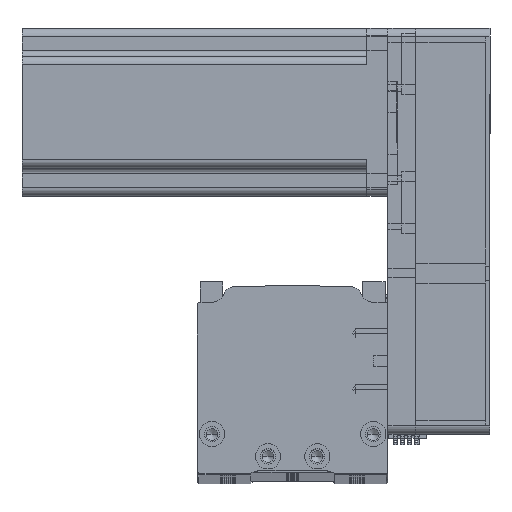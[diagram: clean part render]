
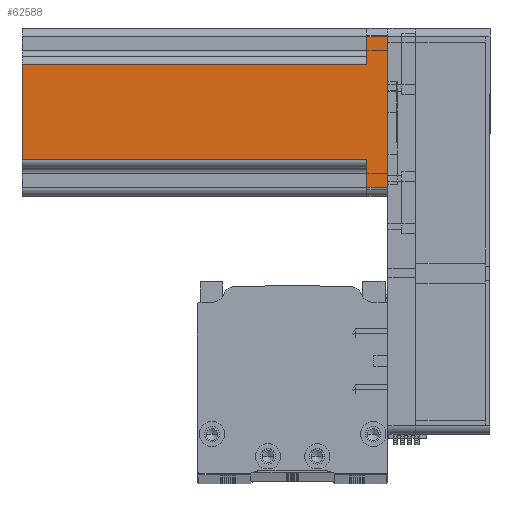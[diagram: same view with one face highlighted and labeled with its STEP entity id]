
A CAD part, top view. The second image highlights one B-rep face of the part: STEP entity #62588.
In plain terms, the highlighted planar face has unit normal (0, 0, 1) as drawn and (0, -1, 0) by its records, which use the part's own axes.
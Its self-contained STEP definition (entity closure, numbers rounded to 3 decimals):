
#108 = ORIENTED_EDGE ( 'NONE', *, *, #63922, .T. ) ;
#1700 = VERTEX_POINT ( 'NONE', #34991 ) ;
#2120 = VERTEX_POINT ( 'NONE', #38056 ) ;
#2446 = ORIENTED_EDGE ( 'NONE', *, *, #5366, .T. ) ;
#2480 = LINE ( 'NONE', #35633, #42199 ) ;
#4427 = ORIENTED_EDGE ( 'NONE', *, *, #37836, .T. ) ;
#5366 = EDGE_CURVE ( 'NONE', #16428, #2120, #51120, .T. ) ;
#6698 = AXIS2_PLACEMENT_3D ( 'NONE', #50732, #19759, #55977 ) ;
#7811 = VERTEX_POINT ( 'NONE', #65403 ) ;
#8148 = VECTOR ( 'NONE', #35268, 1000. ) ;
#8326 = LINE ( 'NONE', #56035, #48047 ) ;
#8491 = ORIENTED_EDGE ( 'NONE', *, *, #65671, .F. ) ;
#10714 = CARTESIAN_POINT ( 'NONE',  ( -27., -30., 7.5 ) ) ;
#11342 = LINE ( 'NONE', #11974, #52720 ) ;
#11683 = VERTEX_POINT ( 'NONE', #20387 ) ;
#11974 = CARTESIAN_POINT ( 'NONE',  ( 30., -30., 130.7 ) ) ;
#14751 = CARTESIAN_POINT ( 'NONE',  ( 17., -30., 130.7 ) ) ;
#16428 = VERTEX_POINT ( 'NONE', #46143 ) ;
#18741 = EDGE_CURVE ( 'NONE', #67098, #53485, #2480, .T. ) ;
#19021 = CARTESIAN_POINT ( 'NONE',  ( 27., -30., 0. ) ) ;
#19759 = DIRECTION ( 'NONE',  ( 0., 1., 0. ) ) ;
#20001 = DIRECTION ( 'NONE',  ( 0., 0., 1. ) ) ;
#20387 = CARTESIAN_POINT ( 'NONE',  ( 17., -30., 130.7 ) ) ;
#20598 = EDGE_CURVE ( 'NONE', #53485, #7811, #55292, .T. ) ;
#22240 = DIRECTION ( 'NONE',  ( 0., 0., 1. ) ) ;
#22571 = VECTOR ( 'NONE', #20001, 1000. ) ;
#24628 = ORIENTED_EDGE ( 'NONE', *, *, #18741, .T. ) ;
#24994 = DIRECTION ( 'NONE',  ( -1., 0., 0. ) ) ;
#26258 = CARTESIAN_POINT ( 'NONE',  ( -27., -30., 0. ) ) ;
#28239 = EDGE_CURVE ( 'NONE', #16428, #11683, #11342, .T. ) ;
#31843 = EDGE_CURVE ( 'NONE', #1700, #11683, #36308, .T. ) ;
#34590 = CARTESIAN_POINT ( 'NONE',  ( -17., -30., 130.7 ) ) ;
#34670 = VECTOR ( 'NONE', #54456, 1000. ) ;
#34991 = CARTESIAN_POINT ( 'NONE',  ( 17., -30., 7.5 ) ) ;
#35268 = DIRECTION ( 'NONE',  ( 0., 0., -1. ) ) ;
#35633 = CARTESIAN_POINT ( 'NONE',  ( 30., -30., 0. ) ) ;
#35866 = DIRECTION ( 'NONE',  ( 1., 0., 0. ) ) ;
#36282 = LINE ( 'NONE', #44412, #34670 ) ;
#36308 = LINE ( 'NONE', #14751, #22571 ) ;
#37836 = EDGE_CURVE ( 'NONE', #39674, #67098, #47439, .T. ) ;
#38056 = CARTESIAN_POINT ( 'NONE',  ( -17., -30., 7.5 ) ) ;
#39674 = VERTEX_POINT ( 'NONE', #10714 ) ;
#39822 = VECTOR ( 'NONE', #22240, 1000. ) ;
#42199 = VECTOR ( 'NONE', #35866, 1000. ) ;
#44412 = CARTESIAN_POINT ( 'NONE',  ( -20., -30., 7.5 ) ) ;
#45053 = PLANE ( 'NONE',  #6698 ) ;
#46143 = CARTESIAN_POINT ( 'NONE',  ( -17., -30., 130.7 ) ) ;
#47439 = LINE ( 'NONE', #49311, #59679 ) ;
#48047 = VECTOR ( 'NONE', #24994, 1000. ) ;
#48117 = EDGE_LOOP ( 'NONE', ( #54959, #2446, #8491, #4427, #24628, #56803, #108, #57161 ) ) ;
#48229 = DIRECTION ( 'NONE',  ( 1., 0., 0. ) ) ;
#48467 = CARTESIAN_POINT ( 'NONE',  ( 27., -30., 130.7 ) ) ;
#49311 = CARTESIAN_POINT ( 'NONE',  ( -27., -30., 130.7 ) ) ;
#50732 = CARTESIAN_POINT ( 'NONE',  ( 30., -30., 130.7 ) ) ;
#51120 = LINE ( 'NONE', #34590, #8148 ) ;
#52720 = VECTOR ( 'NONE', #48229, 1000. ) ;
#53485 = VERTEX_POINT ( 'NONE', #19021 ) ;
#54456 = DIRECTION ( 'NONE',  ( 1., 0., 0. ) ) ;
#54959 = ORIENTED_EDGE ( 'NONE', *, *, #28239, .F. ) ;
#55292 = LINE ( 'NONE', #48467, #39822 ) ;
#55977 = DIRECTION ( 'NONE',  ( -1., 0., 0. ) ) ;
#56035 = CARTESIAN_POINT ( 'NONE',  ( 20., -30., 7.5 ) ) ;
#56710 = FACE_OUTER_BOUND ( 'NONE', #48117, .T. ) ;
#56803 = ORIENTED_EDGE ( 'NONE', *, *, #20598, .T. ) ;
#57161 = ORIENTED_EDGE ( 'NONE', *, *, #31843, .T. ) ;
#59679 = VECTOR ( 'NONE', #59830, 1000. ) ;
#59830 = DIRECTION ( 'NONE',  ( 0., 0., -1. ) ) ;
#62588 = ADVANCED_FACE ( 'NONE', ( #56710 ), #45053, .F. ) ;
#63922 = EDGE_CURVE ( 'NONE', #7811, #1700, #8326, .T. ) ;
#65403 = CARTESIAN_POINT ( 'NONE',  ( 27., -30., 7.5 ) ) ;
#65671 = EDGE_CURVE ( 'NONE', #39674, #2120, #36282, .T. ) ;
#67098 = VERTEX_POINT ( 'NONE', #26258 ) ;
